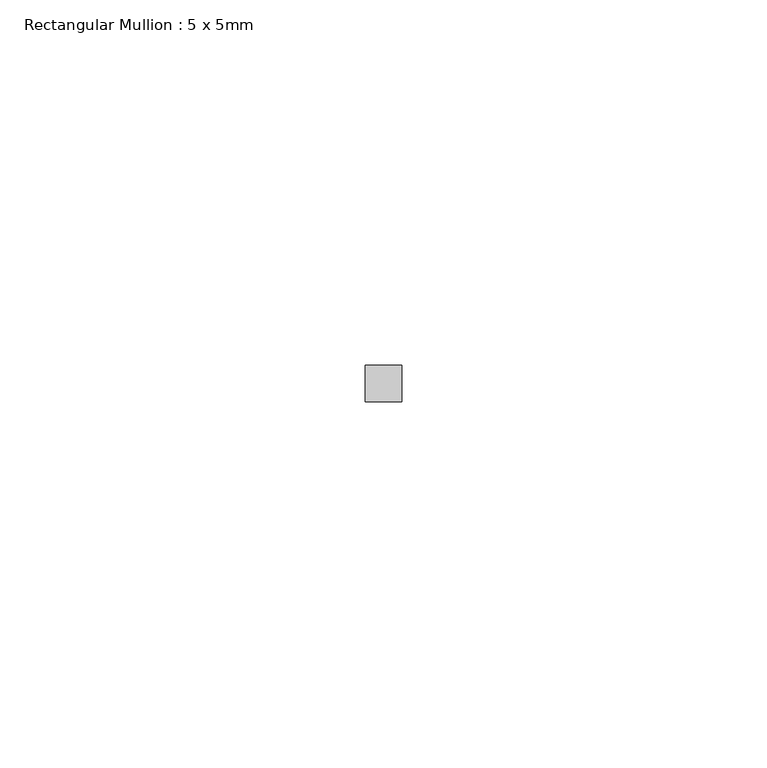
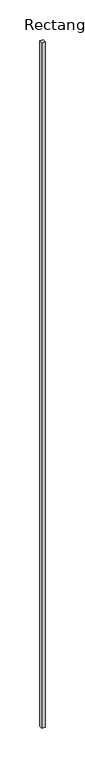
"""IFC4 building model written with IfcOpenShell, lengths in millimetres: member geometry, Rectangular Mullion : 5 x 5mm."""

from ifc_helpers import new_model, si_unit, frame, origin, place, context, project, spatial, polyline, outline, extrude, source, transform, mapped, element, save


def rectangular_mullion_5_x_5mm_7703ae8f(model_context):
    return source(origin(), model_context, "Body", "SweptSolid", [
        extrude(outline(polyline([(0.0, 2.5), (0.0, -2.5), (-5.0, -2.5), (-5.0, 2.5), (0.0, 2.5)])), frame((0.0, 0.0, -1052.5), z_axis=(0.0, 0.0, 1.0), x_axis=(1.0, 0.0, 0.0)), (0.0, 0.0, 1.0), 1052.5),
    ])


if __name__ == "__main__":
    model = new_model("IFC4")
    model_context = context("Model", 3, world=origin())
    ifc_project = project(units=[si_unit("LENGTHUNIT", "METRE", prefix="MILLI")], contexts=[model_context])
    site = spatial("IfcSite", under=ifc_project)
    building = spatial("IfcBuilding", under=site)
    placement = place(None, origin())
    rectangular_mullion_5_x_5mm_shape = rectangular_mullion_5_x_5mm_7703ae8f(model_context)
    element("IfcMember", 1, ObjectType="Rectangular Mullion : 5 x 5mm", at=placement, inside=building, context=model_context, shape_type="MappedRepresentation", body=[
        mapped(rectangular_mullion_5_x_5mm_shape, transform((0.0, 0.0, 0.0), x_axis=(1.0, 0.0, 0.0), y_axis=(0.0, 1.0, 0.0), z_axis=(0.0, 0.0, 1.0))),
    ])
    save(model, "model.ifc")
